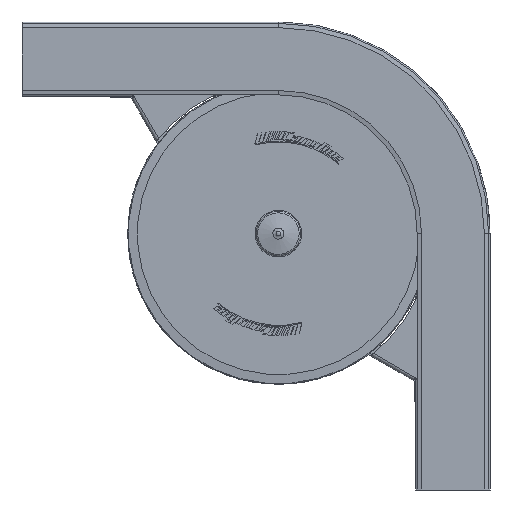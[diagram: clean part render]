
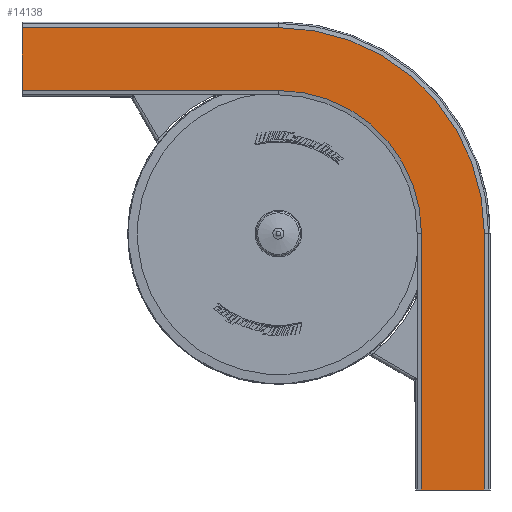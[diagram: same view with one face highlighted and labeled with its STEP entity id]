
A CAD part, front view. The second image highlights one B-rep face of the part: STEP entity #14138.
In plain terms, the highlighted planar face has unit normal (0, -1, 0).
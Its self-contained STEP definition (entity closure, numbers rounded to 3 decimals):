
#1086=FACE_OUTER_BOUND('',#1935,.T.);
#1935=EDGE_LOOP('',(#10288,#10289,#10290,#10291,#10292,#10293,#10294,#10295));
#2792=CIRCLE('',#15244,239.);
#2795=CIRCLE('',#15250,166.);
#3524=LINE('',#21612,#4844);
#3529=LINE('',#21621,#4849);
#3531=LINE('',#21626,#4851);
#3546=LINE('',#21666,#4866);
#3551=LINE('',#21677,#4871);
#3552=LINE('',#21679,#4872);
#4844=VECTOR('',#17093,10.);
#4849=VECTOR('',#17100,10.);
#4851=VECTOR('',#17104,10.);
#4866=VECTOR('',#17145,10.);
#4871=VECTOR('',#17158,10.);
#4872=VECTOR('',#17161,10.);
#6134=VERTEX_POINT('',#21609);
#6135=VERTEX_POINT('',#21611);
#6138=VERTEX_POINT('',#21618);
#6139=VERTEX_POINT('',#21623);
#6149=VERTEX_POINT('',#21649);
#6151=VERTEX_POINT('',#21659);
#6152=VERTEX_POINT('',#21664);
#6154=VERTEX_POINT('',#21675);
#7646=EDGE_CURVE('',#6135,#6134,#3524,.T.);
#7651=EDGE_CURVE('',#6135,#6138,#3529,.T.);
#7653=EDGE_CURVE('',#6134,#6139,#3531,.T.);
#7666=EDGE_CURVE('',#6139,#6149,#2792,.T.);
#7672=EDGE_CURVE('',#6138,#6151,#2795,.T.);
#7674=EDGE_CURVE('',#6149,#6152,#3546,.T.);
#7679=EDGE_CURVE('',#6151,#6154,#3551,.T.);
#7680=EDGE_CURVE('',#6152,#6154,#3552,.T.);
#10288=ORIENTED_EDGE('',*,*,#7680,.T.);
#10289=ORIENTED_EDGE('',*,*,#7679,.F.);
#10290=ORIENTED_EDGE('',*,*,#7672,.F.);
#10291=ORIENTED_EDGE('',*,*,#7651,.F.);
#10292=ORIENTED_EDGE('',*,*,#7646,.T.);
#10293=ORIENTED_EDGE('',*,*,#7653,.T.);
#10294=ORIENTED_EDGE('',*,*,#7666,.T.);
#10295=ORIENTED_EDGE('',*,*,#7674,.T.);
#13587=PLANE('',#15256);
#14138=ADVANCED_FACE('',(#1086),#13587,.T.);
#15244=AXIS2_PLACEMENT_3D('',#21651,#17125,#17126);
#15250=AXIS2_PLACEMENT_3D('',#21662,#17140,#17141);
#15256=AXIS2_PLACEMENT_3D('',#21678,#17159,#17160);
#17093=DIRECTION('',(1.,0.,0.));
#17100=DIRECTION('',(0.,0.,1.));
#17104=DIRECTION('',(0.,0.,1.));
#17125=DIRECTION('center_axis',(0.,-1.,0.));
#17126=DIRECTION('ref_axis',(1.,0.,0.));
#17140=DIRECTION('center_axis',(0.,-1.,0.));
#17141=DIRECTION('ref_axis',(1.,0.,0.));
#17145=DIRECTION('',(-1.,0.,0.));
#17158=DIRECTION('',(-1.,0.,0.));
#17159=DIRECTION('center_axis',(0.,-1.,0.));
#17160=DIRECTION('ref_axis',(1.,0.,0.));
#17161=DIRECTION('',(0.,0.,-1.));
#21609=CARTESIAN_POINT('',(36.5,-11.,0.));
#21611=CARTESIAN_POINT('',(-36.5,-11.,0.));
#21612=CARTESIAN_POINT('',(-36.5,-11.,0.));
#21618=CARTESIAN_POINT('',(-36.5,-11.,297.5));
#21621=CARTESIAN_POINT('',(-36.5,-11.,0.));
#21623=CARTESIAN_POINT('',(36.5,-11.,297.5));
#21626=CARTESIAN_POINT('',(36.5,-11.,0.));
#21649=CARTESIAN_POINT('',(-202.5,-11.,536.5));
#21651=CARTESIAN_POINT('Origin',(-202.5,-11.,297.5));
#21659=CARTESIAN_POINT('',(-202.5,-11.,463.5));
#21662=CARTESIAN_POINT('Origin',(-202.5,-11.,297.5));
#21664=CARTESIAN_POINT('',(-500.,-11.,536.5));
#21666=CARTESIAN_POINT('',(413.086,-11.,536.5));
#21675=CARTESIAN_POINT('',(-500.,-11.,463.5));
#21677=CARTESIAN_POINT('',(413.086,-11.,463.5));
#21678=CARTESIAN_POINT('Origin',(413.086,-11.,536.5));
#21679=CARTESIAN_POINT('',(-500.,-11.,519.75));
